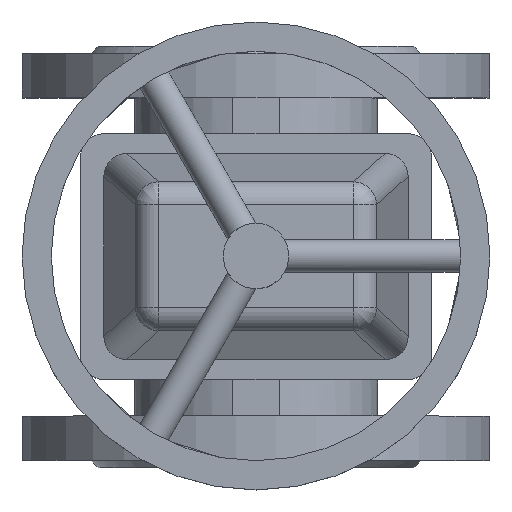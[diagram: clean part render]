
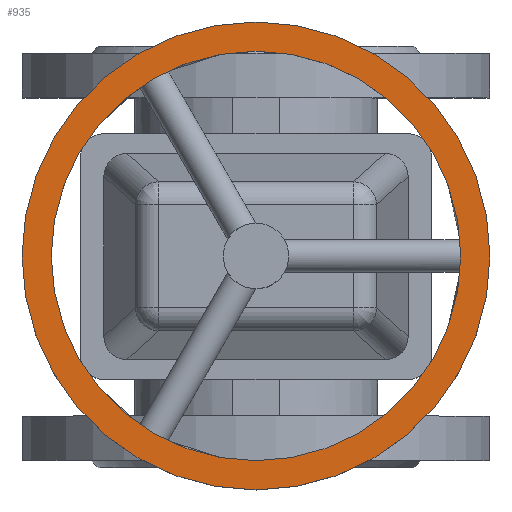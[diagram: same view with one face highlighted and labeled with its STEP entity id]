
A CAD part, top view. The second image highlights one B-rep face of the part: STEP entity #935.
In plain terms, the highlighted planar face has unit normal (0, 0, 1).
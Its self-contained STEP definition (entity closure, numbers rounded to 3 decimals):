
#935=ADVANCED_FACE('',(#2068,#2070),#2072,.T.);
#2068=FACE_BOUND('',#2069,.T.);
#2069=EDGE_LOOP('',(#2567));
#2070=FACE_BOUND('',#2071,.T.);
#2071=EDGE_LOOP('',(#2568));
#2072=PLANE('',#2073);
#2073=AXIS2_PLACEMENT_3D('',#2074,#2075,#2076);
#2074=CARTESIAN_POINT('',(0.,0.,292.5));
#2075=DIRECTION('',(0.,0.,1.));
#2076=DIRECTION('',(0.,-1.,0.));
#2567=ORIENTED_EDGE('',*,*,#2810,.T.);
#2568=ORIENTED_EDGE('',*,*,#2808,.T.);
#2808=EDGE_CURVE('',#3212,#3212,#3213,.F.);
#2810=EDGE_CURVE('',#3216,#3216,#3217,.T.);
#3212=VERTEX_POINT('',#4835);
#3213=CIRCLE('',#4836,87.5);
#3216=VERTEX_POINT('',#4845);
#3217=CIRCLE('',#4846,100.);
#4835=CARTESIAN_POINT('',(0.,-87.5,292.5));
#4836=AXIS2_PLACEMENT_3D('',#4837,#4838,#4839);
#4837=CARTESIAN_POINT('',(0.,0.,292.5));
#4838=DIRECTION('',(0.,0.,1.));
#4839=DIRECTION('',(0.,-1.,0.));
#4845=CARTESIAN_POINT('',(0.,-100.,292.5));
#4846=AXIS2_PLACEMENT_3D('',#4847,#4848,#4849);
#4847=CARTESIAN_POINT('',(0.,0.,292.5));
#4848=DIRECTION('',(0.,0.,1.));
#4849=DIRECTION('',(0.,-1.,0.));
